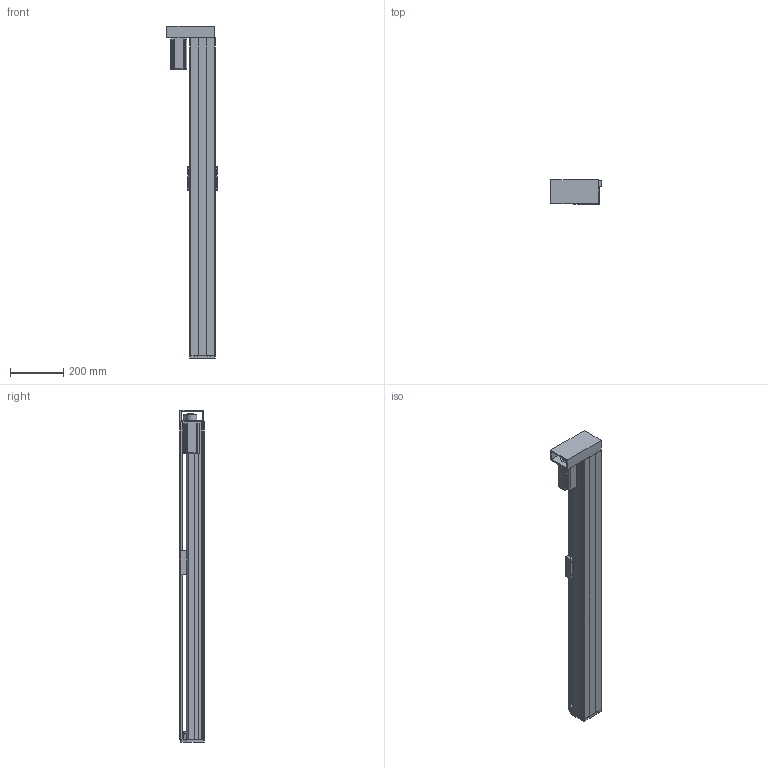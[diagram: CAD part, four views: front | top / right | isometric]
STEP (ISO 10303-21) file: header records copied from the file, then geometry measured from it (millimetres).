
FILE_DESCRIPTION (( 'STEP AP214' ), '1' );
FILE_NAME ('CF92-2-20-C-1000-FWL.STEP', '2016-04-24T09:43:32', ( '' ), ( '' ), 'SwSTEP 2.0', 'SolidWorks 2015', '' );
FILE_SCHEMA (( 'AUTOMOTIVE_DESIGN' ));
Length unit declared in the file: millimetre
Products named in the file (16): 95滅袉蝶菜; sfdj-400w; 95裔啣-1; CF95邧絳寢賑輸; SFS1605-500; 20-5M-20-囀噤10; CF95嘐隅釱; CF92-2-20-C-1000-FWL; HTD-320-5M-20; HGR15絳寢; 95耜啣; 9090180; 95粣創裔啣; hGH15CA賑輸; CF95-2臏倰第; 95盓厥傷
Assembly tree (19 placements, depth 2):
  CF92-2-20-C-1000-FWL
    CF95-2臏倰第
    95滅袉蝶菜  x2
    95粣創裔啣
    SFS1605-500
    95裔啣-1
    CF95嘐隅釱
    HGR15絳寢  x2
    hGH15CA賑輸  x2
    95盓厥傷
    CF95邧絳寢賑輸
    9090180
    sfdj-400w
    95耜啣
    20-5M-20-囀噤10  x2
    HTD-320-5M-20
Bounding box: 189.49 x 91.11 x 1246 mm (x, y, z)
Volume: 4329173 mm3; surface area: 1326626.3 mm2
Topology: 19 solids, 19 shells, 1231 faces, 3383 edges, 2226 vertices
Faces by surface type: plane 595, cylinder 502, bspline 130, cone 4
Entity records: 41698 total; most frequent: CARTESIAN_POINT 14411, ORIENTED_EDGE 5702, DIRECTION 5167, EDGE_CURVE 2851, VERTEX_POINT 1882, LINE 1767, VECTOR 1767, AXIS2_PLACEMENT_3D 1700
